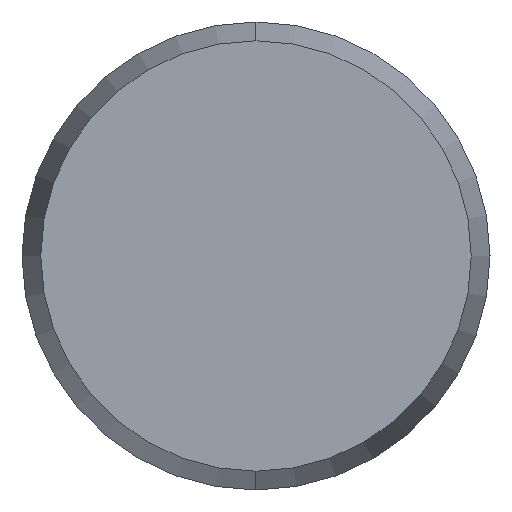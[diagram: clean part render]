
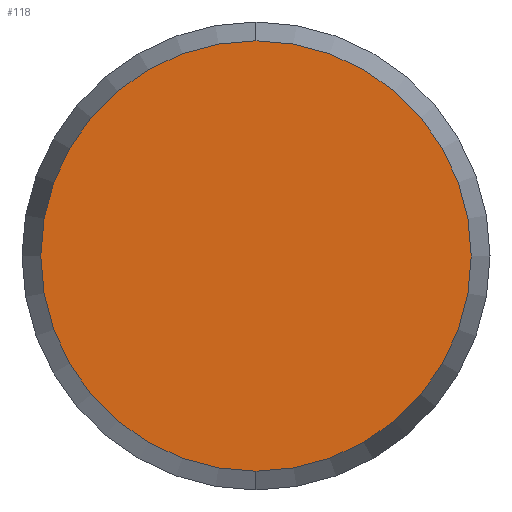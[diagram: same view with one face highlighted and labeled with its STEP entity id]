
A CAD part, left-side view. The second image highlights one B-rep face of the part: STEP entity #118.
In plain terms, the highlighted planar face has unit normal (-1, 0, 0).
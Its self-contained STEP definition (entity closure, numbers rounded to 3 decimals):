
#76 = VERTEX_POINT ( 'NONE', #84 ) ;
#77 = VERTEX_POINT ( 'NONE', #83 ) ;
#78 = EDGE_CURVE ( 'NONE', #77, #76, #82, .T. ) ;
#80 = CARTESIAN_POINT ( 'NONE',  ( -15., 0., 0. ) ) ;
#81 = AXIS2_PLACEMENT_3D ( 'NONE', #80, #179, #178 ) ;
#82 = CIRCLE ( 'NONE', #81, 4.598 ) ;
#83 = CARTESIAN_POINT ( 'NONE',  ( -15., 0., 4.598 ) ) ;
#84 = CARTESIAN_POINT ( 'NONE',  ( -15., 0., -4.598 ) ) ;
#115 = EDGE_CURVE ( 'NONE', #76, #77, #187, .T. ) ;
#118 = ADVANCED_FACE ( 'NONE', ( #184 ), #185, .F. ) ;
#119 = EDGE_LOOP ( 'NONE', ( #120, #121 ) ) ;
#120 = ORIENTED_EDGE ( 'NONE', *, *, #78, .F. ) ;
#121 = ORIENTED_EDGE ( 'NONE', *, *, #115, .F. ) ;
#178 = DIRECTION ( 'NONE',  ( 0., 0., -1. ) ) ;
#179 = DIRECTION ( 'NONE',  ( 1., 0., 0. ) ) ;
#180 = DIRECTION ( 'NONE',  ( 0., 0., -1. ) ) ;
#181 = DIRECTION ( 'NONE',  ( 1., 0., 0. ) ) ;
#182 = CARTESIAN_POINT ( 'NONE',  ( -15., 0., 0. ) ) ;
#183 = AXIS2_PLACEMENT_3D ( 'NONE', #182, #181, #180 ) ;
#184 = FACE_OUTER_BOUND ( 'NONE', #119, .T. ) ;
#185 = PLANE ( 'NONE',  #183 ) ;
#186 = AXIS2_PLACEMENT_3D ( 'NONE', #188, #189, #190 ) ;
#187 = CIRCLE ( 'NONE', #186, 4.598 ) ;
#188 = CARTESIAN_POINT ( 'NONE',  ( -15., 0., 0. ) ) ;
#189 = DIRECTION ( 'NONE',  ( 1., 0., 0. ) ) ;
#190 = DIRECTION ( 'NONE',  ( 0., 0., -1. ) ) ;
